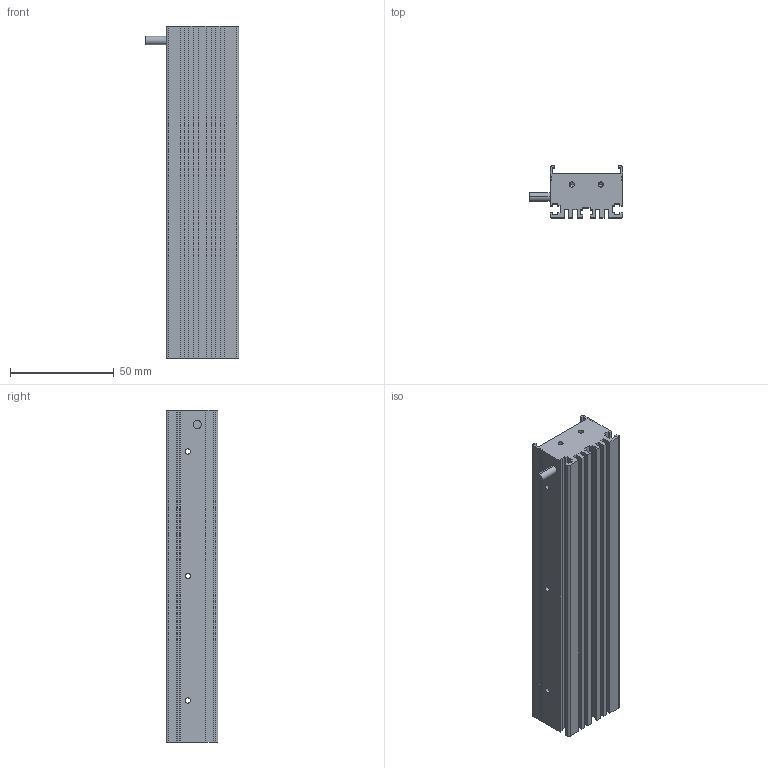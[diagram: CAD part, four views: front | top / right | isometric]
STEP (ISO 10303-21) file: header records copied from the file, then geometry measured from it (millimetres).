
FILE_DESCRIPTION (( 'STEP AP203' ), '1' );
FILE_NAME ('TR16035-W.STEP', '2021-10-14T03:18:18', ( 'Windows 蚚誧' ), ( 'Microsoft' ), 'SwSTEP 2.0', 'SolidWorks 2016', '' );
FILE_SCHEMA (( 'CONFIG_CONTROL_DESIGN' ));
Length unit declared in the file: millimetre
Products named in the file (1): TR16035-W
Bounding box: 45 x 25 x 160 mm (x, y, z)
Volume: 57479.1 mm3; surface area: 46151.5 mm2
Topology: 1 solids, 1 shells, 1334 faces, 3464 edges, 2132 vertices
Faces by surface type: cylinder 706, sphere 336, plane 276, cone 16
Entity records: 36337 total; most frequent: DIRECTION 7210, CARTESIAN_POINT 5963, ORIENTED_EDGE 5568, AXIS2_PLACEMENT_3D 3107, EDGE_CURVE 2784, VERTEX_POINT 1796, CIRCLE 1772, EDGE_LOOP 1690
